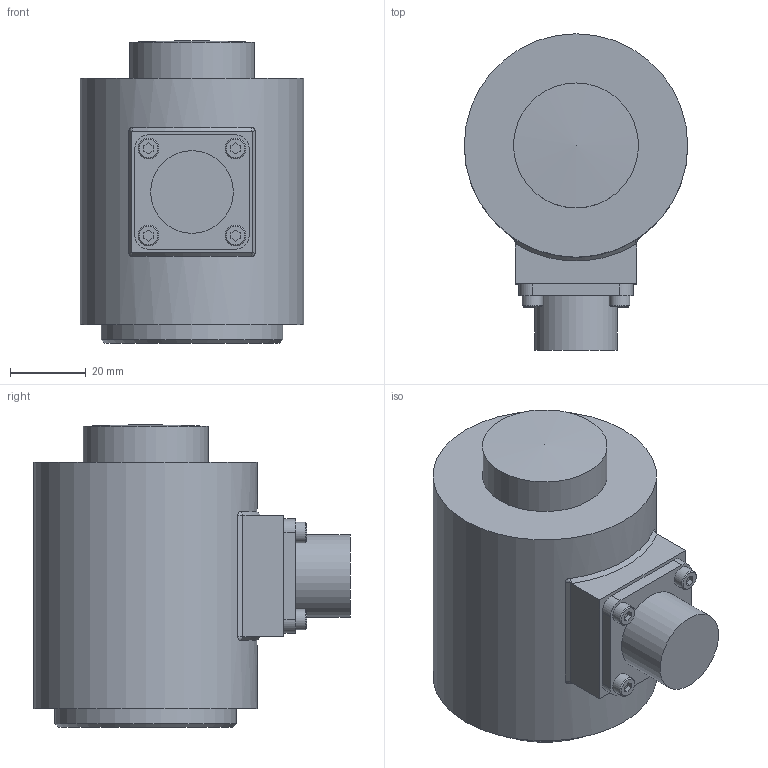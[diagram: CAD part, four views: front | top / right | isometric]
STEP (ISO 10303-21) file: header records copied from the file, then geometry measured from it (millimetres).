
FILE_DESCRIPTION(/* description */ ('Unknown'),/* implementation_level */ '2;1');
FILE_NAME(/* name */ 'C3XK-T010 SPEC',/* time_stamp */ '2021-05-11T15:24:20+09:00',/* author */ ('Unknown'),/* organization */ ('Unknown'),/* preprocessor_version */ 'ST-DEVELOPER v16.7',/* originating_system */ 'DEX',/* authorisation */ $);
FILE_SCHEMA (('AUTOMOTIVE_DESIGN {1 0 10303 214 3 1 1}'));
Length unit declared in the file: millimetre
Products named in the file (1): C3XK-T010 SPEC
Bounding box: 59 x 83.5 x 80 mm (x, y, z)
Volume: 211223 mm3; surface area: 22304.4 mm2
Topology: 1 solids, 1 shells, 76 faces, 184 edges, 119 vertices
Faces by surface type: plane 49, cylinder 13, cone 9, bspline 4, sphere 1
Full cylindrical faces by diameter (mm): 5.5 x4, 10 x1, 21.8 x1, 33 x1, 48 x1, 59 x1
Entity records: 2654 total; most frequent: CARTESIAN_POINT 455, DIRECTION 320, ORIENTED_EDGE 314, EDGE_CURVE 157, VERTEX_POINT 113, AXIS2_PLACEMENT_3D 110, EDGE_LOOP 106, FACE_BOUND 106
